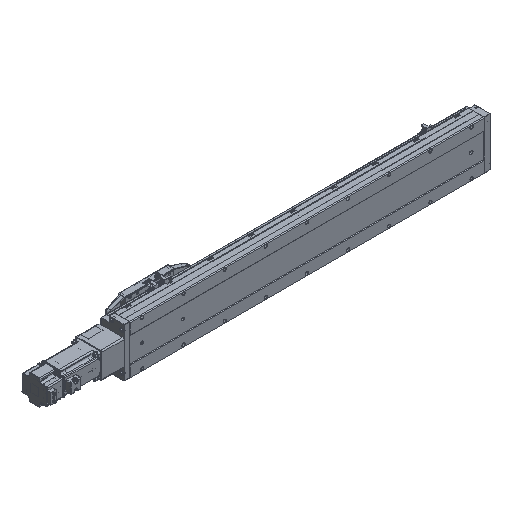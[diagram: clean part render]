
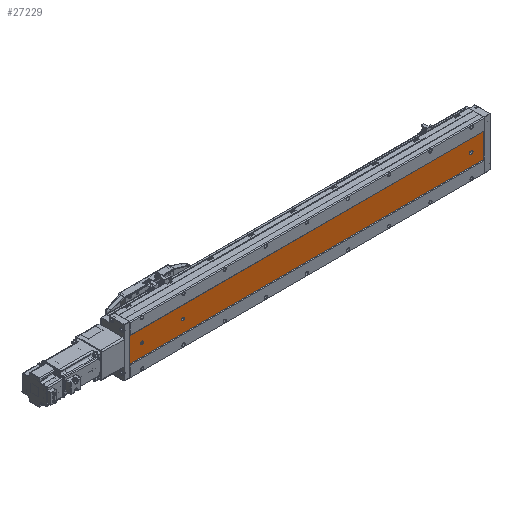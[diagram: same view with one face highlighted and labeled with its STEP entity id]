
A CAD part, isometric view. The second image highlights one B-rep face of the part: STEP entity #27229.
In plain terms, the highlighted planar face has unit normal (0, -1, 0).
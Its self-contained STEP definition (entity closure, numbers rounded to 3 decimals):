
#550 = CARTESIAN_POINT ( 'NONE',  ( -39.892, -52.848, 26.5 ) ) ;
#844 = AXIS2_PLACEMENT_3D ( 'NONE', #31771, #87996, #66235 ) ;
#1301 = VERTEX_POINT ( 'NONE', #73809 ) ;
#2173 = AXIS2_PLACEMENT_3D ( 'NONE', #58248, #59158, #37806 ) ;
#2730 = EDGE_CURVE ( 'NONE', #20160, #1301, #60339, .T. ) ;
#5239 = VERTEX_POINT ( 'NONE', #72844 ) ;
#6333 = VERTEX_POINT ( 'NONE', #40200 ) ;
#6790 = EDGE_CURVE ( 'NONE', #40662, #68722, #90993, .T. ) ;
#8989 = CARTESIAN_POINT ( 'NONE',  ( -39.892, -52.848, 827.5 ) ) ;
#10598 = DIRECTION ( 'NONE',  ( 1., 0., 0. ) ) ;
#10859 = CARTESIAN_POINT ( 'NONE',  ( -9.892, -52.848, 0. ) ) ;
#11500 = DIRECTION ( 'NONE',  ( 0., 0., -1. ) ) ;
#12835 = LINE ( 'NONE', #75419, #83898 ) ;
#13622 = CARTESIAN_POINT ( 'NONE',  ( -9.892, -52.848, 861. ) ) ;
#14434 = ORIENTED_EDGE ( 'NONE', *, *, #6790, .T. ) ;
#15448 = VECTOR ( 'NONE', #10598, 1000. ) ;
#15496 = VERTEX_POINT ( 'NONE', #66685 ) ;
#15551 = AXIS2_PLACEMENT_3D ( 'NONE', #17062, #23871, #24192 ) ;
#15592 = VECTOR ( 'NONE', #53466, 1000. ) ;
#16711 = CIRCLE ( 'NONE', #2173, 3.5 ) ;
#16911 = CIRCLE ( 'NONE', #19172, 3.5 ) ;
#17062 = CARTESIAN_POINT ( 'NONE',  ( -39.892, -52.848, 731. ) ) ;
#17740 = CARTESIAN_POINT ( 'NONE',  ( -69.892, -52.848, 0. ) ) ;
#19172 = AXIS2_PLACEMENT_3D ( 'NONE', #90394, #82932, #47792 ) ;
#19227 = ORIENTED_EDGE ( 'NONE', *, *, #79577, .F. ) ;
#19879 = CARTESIAN_POINT ( 'NONE',  ( -69.892, -52.848, 861. ) ) ;
#20160 = VERTEX_POINT ( 'NONE', #8989 ) ;
#20601 = VERTEX_POINT ( 'NONE', #550 ) ;
#21591 = LINE ( 'NONE', #39719, #53770 ) ;
#21963 = CARTESIAN_POINT ( 'NONE',  ( -43.392, -52.848, 32. ) ) ;
#22217 = DIRECTION ( 'NONE',  ( 0., 1., 0. ) ) ;
#22276 = EDGE_CURVE ( 'NONE', #5239, #68882, #21591, .T. ) ;
#23249 = ORIENTED_EDGE ( 'NONE', *, *, #22276, .T. ) ;
#23258 = EDGE_LOOP ( 'NONE', ( #14434, #78993, #19227, #69009 ) ) ;
#23665 = FACE_BOUND ( 'NONE', #70936, .T. ) ;
#23871 = DIRECTION ( 'NONE',  ( 0., 1., 0. ) ) ;
#24192 = DIRECTION ( 'NONE',  ( 0., 0., 1. ) ) ;
#25000 = CARTESIAN_POINT ( 'NONE',  ( -39.892, -52.848, 734.5 ) ) ;
#25388 = EDGE_LOOP ( 'NONE', ( #58415, #37995 ) ) ;
#26223 = PLANE ( 'NONE',  #50883 ) ;
#27229 = ADVANCED_FACE ( 'NONE', ( #61383, #71430, #23665, #73638 ), #26223, .F. ) ;
#27887 = CARTESIAN_POINT ( 'NONE',  ( -36.392, -52.848, 32. ) ) ;
#29141 = ORIENTED_EDGE ( 'NONE', *, *, #68507, .T. ) ;
#31771 = CARTESIAN_POINT ( 'NONE',  ( -39.892, -52.848, 30. ) ) ;
#32442 = EDGE_CURVE ( 'NONE', #68964, #15496, #86101, .T. ) ;
#33039 = DIRECTION ( 'NONE',  ( 0., 0., 1. ) ) ;
#34917 = VERTEX_POINT ( 'NONE', #60586 ) ;
#35348 = CARTESIAN_POINT ( 'NONE',  ( -39.892, -52.848, 831. ) ) ;
#36100 = CIRCLE ( 'NONE', #40664, 3.5 ) ;
#37806 = DIRECTION ( 'NONE',  ( 0., 0., 1. ) ) ;
#37995 = ORIENTED_EDGE ( 'NONE', *, *, #32442, .T. ) ;
#38050 = VERTEX_POINT ( 'NONE', #13622 ) ;
#38421 = VECTOR ( 'NONE', #47577, 1000. ) ;
#39511 = EDGE_CURVE ( 'NONE', #34917, #40662, #90108, .T. ) ;
#39719 = CARTESIAN_POINT ( 'NONE',  ( -43.392, -52.848, 861. ) ) ;
#40200 = CARTESIAN_POINT ( 'NONE',  ( -36.392, -52.848, 30. ) ) ;
#40662 = VERTEX_POINT ( 'NONE', #70318 ) ;
#40664 = AXIS2_PLACEMENT_3D ( 'NONE', #35348, #70447, #63562 ) ;
#41571 = VERTEX_POINT ( 'NONE', #27887 ) ;
#43391 = AXIS2_PLACEMENT_3D ( 'NONE', #64694, #22217, #72759 ) ;
#43990 = LINE ( 'NONE', #89577, #38421 ) ;
#45155 = EDGE_CURVE ( 'NONE', #1301, #20160, #36100, .T. ) ;
#46018 = CARTESIAN_POINT ( 'NONE',  ( -69.892, -52.848, 861. ) ) ;
#46363 = DIRECTION ( 'NONE',  ( 0., 1., 0. ) ) ;
#47392 = DIRECTION ( 'NONE',  ( 0., 0., 1. ) ) ;
#47577 = DIRECTION ( 'NONE',  ( 0., 0., -1. ) ) ;
#47792 = DIRECTION ( 'NONE',  ( 0., 0., 1. ) ) ;
#50883 = AXIS2_PLACEMENT_3D ( 'NONE', #67819, #46363, #33039 ) ;
#52487 = EDGE_CURVE ( 'NONE', #38050, #68722, #43990, .T. ) ;
#53466 = DIRECTION ( 'NONE',  ( 1., 0., 0. ) ) ;
#53770 = VECTOR ( 'NONE', #89734, 1000. ) ;
#55187 = DIRECTION ( 'NONE',  ( 0., 0., -1. ) ) ;
#58248 = CARTESIAN_POINT ( 'NONE',  ( -39.892, -52.848, 32. ) ) ;
#58366 = AXIS2_PLACEMENT_3D ( 'NONE', #61665, #91215, #47392 ) ;
#58415 = ORIENTED_EDGE ( 'NONE', *, *, #73721, .T. ) ;
#59158 = DIRECTION ( 'NONE',  ( 0., 1., 0. ) ) ;
#60339 = CIRCLE ( 'NONE', #43391, 3.5 ) ;
#60586 = CARTESIAN_POINT ( 'NONE',  ( -69.892, -52.848, 861. ) ) ;
#60655 = EDGE_CURVE ( 'NONE', #6333, #20601, #84465, .T. ) ;
#61383 = FACE_BOUND ( 'NONE', #65562, .T. ) ;
#61665 = CARTESIAN_POINT ( 'NONE',  ( -39.892, -52.848, 731. ) ) ;
#62950 = EDGE_CURVE ( 'NONE', #68882, #41571, #16711, .T. ) ;
#63407 = VECTOR ( 'NONE', #55187, 1000. ) ;
#63562 = DIRECTION ( 'NONE',  ( 0., 0., 1. ) ) ;
#63760 = ORIENTED_EDGE ( 'NONE', *, *, #45155, .T. ) ;
#64694 = CARTESIAN_POINT ( 'NONE',  ( -39.892, -52.848, 831. ) ) ;
#65562 = EDGE_LOOP ( 'NONE', ( #23249, #84449, #65905, #81654, #29141 ) ) ;
#65905 = ORIENTED_EDGE ( 'NONE', *, *, #84314, .T. ) ;
#66235 = DIRECTION ( 'NONE',  ( 0., 0., 1. ) ) ;
#66685 = CARTESIAN_POINT ( 'NONE',  ( -39.892, -52.848, 727.5 ) ) ;
#67819 = CARTESIAN_POINT ( 'NONE',  ( -69.892, -52.848, 861. ) ) ;
#68507 = EDGE_CURVE ( 'NONE', #20601, #5239, #16911, .T. ) ;
#68722 = VERTEX_POINT ( 'NONE', #10859 ) ;
#68882 = VERTEX_POINT ( 'NONE', #21963 ) ;
#68964 = VERTEX_POINT ( 'NONE', #25000 ) ;
#69009 = ORIENTED_EDGE ( 'NONE', *, *, #39511, .T. ) ;
#70318 = CARTESIAN_POINT ( 'NONE',  ( -69.892, -52.848, 0. ) ) ;
#70447 = DIRECTION ( 'NONE',  ( 0., 1., 0. ) ) ;
#70936 = EDGE_LOOP ( 'NONE', ( #81535, #63760 ) ) ;
#71430 = FACE_BOUND ( 'NONE', #25388, .T. ) ;
#72759 = DIRECTION ( 'NONE',  ( 0., 0., 1. ) ) ;
#72844 = CARTESIAN_POINT ( 'NONE',  ( -43.392, -52.848, 30. ) ) ;
#73638 = FACE_OUTER_BOUND ( 'NONE', #23258, .T. ) ;
#73721 = EDGE_CURVE ( 'NONE', #15496, #68964, #80995, .T. ) ;
#73809 = CARTESIAN_POINT ( 'NONE',  ( -39.892, -52.848, 834.5 ) ) ;
#75419 = CARTESIAN_POINT ( 'NONE',  ( -36.392, -52.848, 861. ) ) ;
#76667 = LINE ( 'NONE', #46018, #15592 ) ;
#78993 = ORIENTED_EDGE ( 'NONE', *, *, #52487, .F. ) ;
#79577 = EDGE_CURVE ( 'NONE', #34917, #38050, #76667, .T. ) ;
#80995 = CIRCLE ( 'NONE', #58366, 3.5 ) ;
#81535 = ORIENTED_EDGE ( 'NONE', *, *, #2730, .T. ) ;
#81654 = ORIENTED_EDGE ( 'NONE', *, *, #60655, .T. ) ;
#82932 = DIRECTION ( 'NONE',  ( 0., 1., 0. ) ) ;
#83898 = VECTOR ( 'NONE', #11500, 1000. ) ;
#84314 = EDGE_CURVE ( 'NONE', #41571, #6333, #12835, .T. ) ;
#84449 = ORIENTED_EDGE ( 'NONE', *, *, #62950, .T. ) ;
#84465 = CIRCLE ( 'NONE', #844, 3.5 ) ;
#86101 = CIRCLE ( 'NONE', #15551, 3.5 ) ;
#87996 = DIRECTION ( 'NONE',  ( 0., 1., 0. ) ) ;
#89577 = CARTESIAN_POINT ( 'NONE',  ( -9.892, -52.848, 861. ) ) ;
#89734 = DIRECTION ( 'NONE',  ( 0., 0., 1. ) ) ;
#90108 = LINE ( 'NONE', #19879, #63407 ) ;
#90394 = CARTESIAN_POINT ( 'NONE',  ( -39.892, -52.848, 30. ) ) ;
#90993 = LINE ( 'NONE', #17740, #15448 ) ;
#91215 = DIRECTION ( 'NONE',  ( 0., 1., 0. ) ) ;
